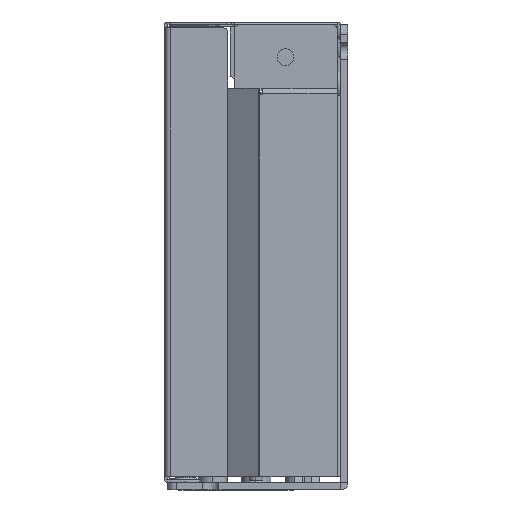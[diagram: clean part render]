
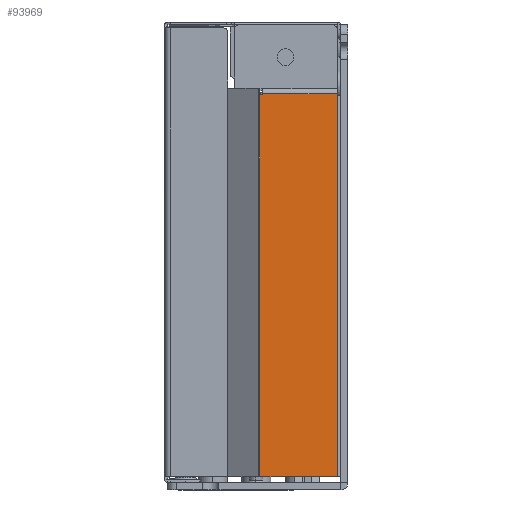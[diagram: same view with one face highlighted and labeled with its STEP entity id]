
A CAD part, left-side view. The second image highlights one B-rep face of the part: STEP entity #93969.
In plain terms, the highlighted planar face has unit normal (-1, 0, 0).
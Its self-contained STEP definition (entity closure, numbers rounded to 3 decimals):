
#41219=DIRECTION('',(0.,1.,0.));
#41220=VECTOR('',#41219,79.4);
#41221=CARTESIAN_POINT('',(-38.45,-32.95,-19.727));
#41222=LINE('',#41221,#41220);
#41226=CARTESIAN_POINT('',(-38.45,-33.15,-20.027));
#41227=DIRECTION('',(-1.,0.,0.));
#41228=DIRECTION('',(0.,0.667,0.745));
#41229=AXIS2_PLACEMENT_3D('',#41226,#41227,#41228);
#41234=DIRECTION('',(0.,1.,0.));
#41235=VECTOR('',#41234,0.3);
#41236=CARTESIAN_POINT('',(-38.45,-32.95,-35.8));
#41237=LINE('',#41236,#41235);
#41241=DIRECTION('',(0.,0.,1.));
#41242=VECTOR('',#41241,0.1);
#41243=CARTESIAN_POINT('',(-38.45,-32.65,-35.9));
#41244=LINE('',#41243,#41242);
#41248=DIRECTION('',(0.,-1.,0.));
#41249=VECTOR('',#41248,79.1);
#41250=CARTESIAN_POINT('',(-38.45,46.45,-35.9));
#41251=LINE('',#41250,#41249);
#41526=DIRECTION('',(0.,0.,-1.));
#41527=VECTOR('',#41526,16.173);
#41528=CARTESIAN_POINT('',(-38.45,46.45,-19.727));
#41529=LINE('',#41528,#41527);
#41607=DIRECTION('',(0.,0.,-1.));
#41608=VECTOR('',#41607,0.076);
#41609=CARTESIAN_POINT('',(-38.45,-32.95,-19.727));
#41610=LINE('',#41609,#41608);
#41630=DIRECTION('',(0.,0.,-1.));
#41631=VECTOR('',#41630,15.549);
#41632=CARTESIAN_POINT('',(-38.45,-32.95,-20.251));
#41633=LINE('',#41632,#41631);
#86393=CARTESIAN_POINT('',(-38.45,46.45,-19.727));
#86394=VERTEX_POINT('',#86393);
#86401=CARTESIAN_POINT('',(-38.45,-32.95,-19.727));
#86402=VERTEX_POINT('',#86401);
#86437=CARTESIAN_POINT('',(-38.45,-32.65,-35.9));
#86438=VERTEX_POINT('',#86437);
#86439=CARTESIAN_POINT('',(-38.45,46.45,-35.9));
#86440=VERTEX_POINT('',#86439);
#86457=CARTESIAN_POINT('',(-38.45,-32.95,-19.803));
#86458=CARTESIAN_POINT('',(-38.45,-32.95,-20.251));
#86459=VERTEX_POINT('',#86457);
#86460=VERTEX_POINT('',#86458);
#86486=CARTESIAN_POINT('',(-38.45,-32.95,-35.8));
#86487=VERTEX_POINT('',#86486);
#86760=CARTESIAN_POINT('',(-38.45,-32.65,-35.8));
#86761=VERTEX_POINT('',#86760);
#93946=CARTESIAN_POINT('',(-38.45,-46.65,-19.727));
#93947=DIRECTION('',(1.,0.,0.));
#93948=DIRECTION('',(0.,0.,-1.));
#93949=AXIS2_PLACEMENT_3D('',#93946,#93947,#93948);
#93950=PLANE('',#93949);
#93952=ORIENTED_EDGE('',*,*,#93951,.F.);
#93954=ORIENTED_EDGE('',*,*,#93953,.F.);
#93956=ORIENTED_EDGE('',*,*,#93955,.F.);
#93958=ORIENTED_EDGE('',*,*,#93957,.T.);
#93960=ORIENTED_EDGE('',*,*,#93959,.T.);
#93962=ORIENTED_EDGE('',*,*,#93961,.T.);
#93964=ORIENTED_EDGE('',*,*,#93963,.T.);
#93966=ORIENTED_EDGE('',*,*,#93965,.F.);
#93967=EDGE_LOOP('',(#93952,#93954,#93956,#93958,#93960,#93962,#93964,#93966));
#93968=FACE_OUTER_BOUND('',#93967,.F.);
#41230=CIRCLE('',#41229,0.3);
#93951=EDGE_CURVE('',#86440,#86438,#41251,.T.);
#93953=EDGE_CURVE('',#86394,#86440,#41529,.T.);
#93955=EDGE_CURVE('',#86402,#86394,#41222,.T.);
#93957=EDGE_CURVE('',#86402,#86459,#41610,.T.);
#93959=EDGE_CURVE('',#86459,#86460,#41230,.T.);
#93961=EDGE_CURVE('',#86460,#86487,#41633,.T.);
#93963=EDGE_CURVE('',#86487,#86761,#41237,.T.);
#93965=EDGE_CURVE('',#86438,#86761,#41244,.T.);
#93969=ADVANCED_FACE('',(#93968),#93950,.F.);
